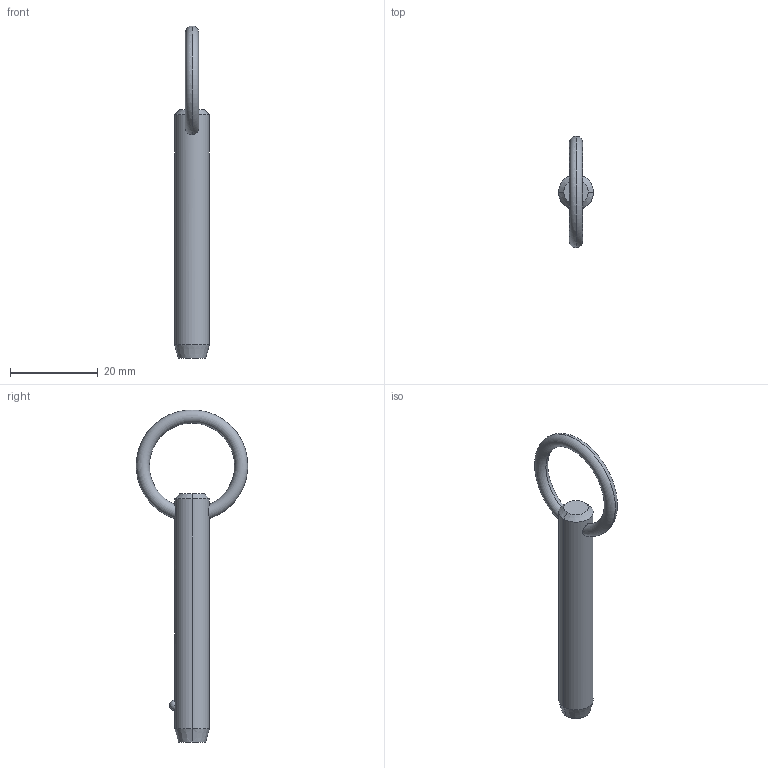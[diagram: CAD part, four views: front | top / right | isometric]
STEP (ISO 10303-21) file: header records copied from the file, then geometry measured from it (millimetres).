
FILE_DESCRIPTION (( 'STEP AP203' ), '1' );
FILE_NAME ('P1250.031-160.step', '2019-07-29T19:49:39', ( '' ), ( '' ), 'SwSTEP 2.0', 'SolidWorks 2017', '' );
FILE_SCHEMA (( 'CONFIG_CONTROL_DESIGN' ));
Length unit declared in the file: millimetre
Products named in the file (1): P1250.031-160
Bounding box: 7.93 x 25.36 x 75.6 mm (x, y, z)
Volume: 3194.5 mm3; surface area: 2044.7 mm2
Topology: 1 solids, 1 shells, 12 faces, 28 edges, 17 vertices
Faces by surface type: cone 4, torus 2, sphere 2, cylinder 2, plane 2
Entity records: 509 total; most frequent: CARTESIAN_POINT 176, DIRECTION 56, ORIENTED_EDGE 48, AXIS2_PLACEMENT_3D 25, EDGE_CURVE 24, VERTEX_POINT 15, EDGE_LOOP 15, FACE_OUTER_BOUND 12
